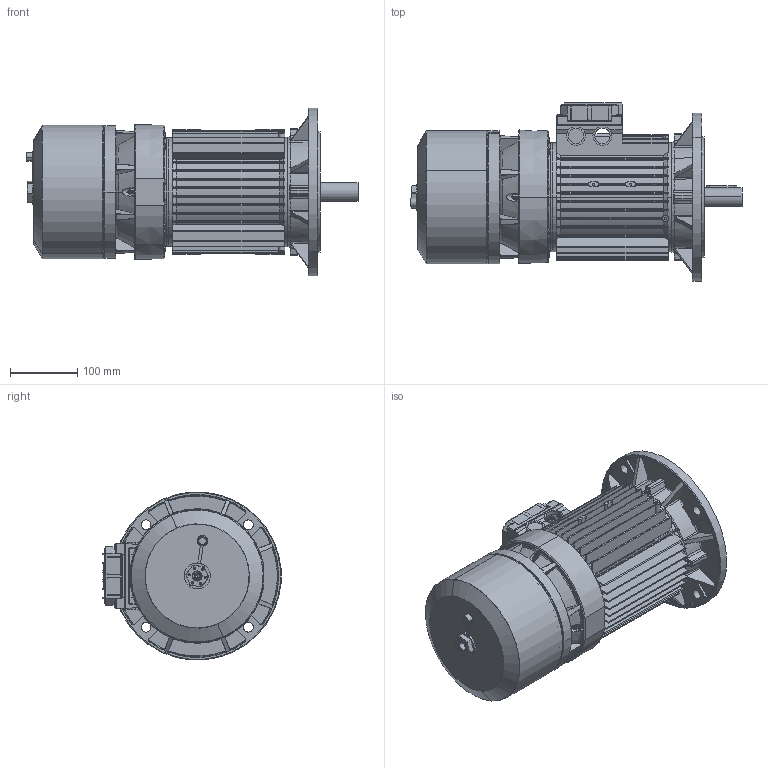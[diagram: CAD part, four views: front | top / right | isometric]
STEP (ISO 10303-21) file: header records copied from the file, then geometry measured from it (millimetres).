
FILE_DESCRIPTION (( 'STEP AP214' ), '1' );
FILE_NAME ('M02GB0012.STEP', '2019-09-18T12:58:41', ( '' ), ( '' ), 'SwSTEP 2.0', 'SolidWorks 2018', '' );
FILE_SCHEMA (( 'AUTOMOTIVE_DESIGN' ));
Length unit declared in the file: millimetre
Products named in the file (14): Coperchio per Scatola Singola 90 - 100 - 112; O-ring freno BA 100; Vite a Testa Esagona con foro e tappo 71-112 - Modificata; Scudo a flangia B5 Fi 250 BA-BM 100 - DEAA0094; Chiavetta 100-112; Cuffia serie BA 100; Convogliatore con pista d''attrito P2 BA 100 - DEAF0295; Scudo Lato Freno BA 100 P1 - DEAE0194; Albero BA 100; Carcassa 100 B5; M02GB0012; Coperchio per Scatola Singola 90 - 100 - 112 con viti; Guarnizione Coperchio Semplice Scatola BA 90 100 112 - DDAL0094; Vite per coperchio morsettiera
Assembly tree (16 placements, depth 3):
  M02GB0012
    Carcassa 100 B5
    Albero BA 100
    Scudo Lato Freno BA 100 P1 - DEAE0194
    Convogliatore con pista d''attrito P2 BA 100 - DEAF0295
    Cuffia serie BA 100
    Chiavetta 100-112
    Scudo a flangia B5 Fi 250 BA-BM 100 - DEAA0094
    Vite a Testa Esagona con foro e tappo 71-112 - Modificata
    O-ring freno BA 100
    Coperchio per Scatola Singola 90 - 100 - 112 con viti
      Coperchio per Scatola Singola 90 - 100 - 112
      Vite per coperchio morsettiera  x4
      Guarnizione Coperchio Semplice Scatola BA 90 100 112 - DDAL0094
Bounding box: 493.18 x 264.52 x 249.05 mm (x, y, z)
Volume: 2368267.5 mm3; surface area: 1199050.8 mm2
Topology: 15 solids, 15 shells, 2921 faces, 8072 edges, 5164 vertices
Faces by surface type: cylinder 981, plane 975, torus 413, cone 364, bspline 188
Entity records: 104311 total; most frequent: CARTESIAN_POINT 34689, ORIENTED_EDGE 15220, DIRECTION 13323, EDGE_CURVE 7610, AXIS2_PLACEMENT_3D 5150, VERTEX_POINT 4930, LINE 3023, VECTOR 3023
